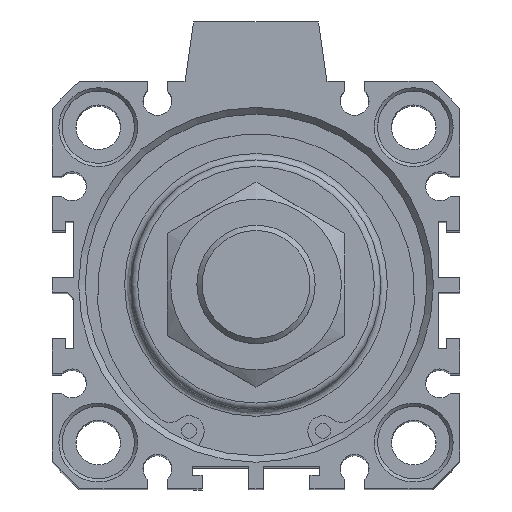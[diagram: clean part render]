
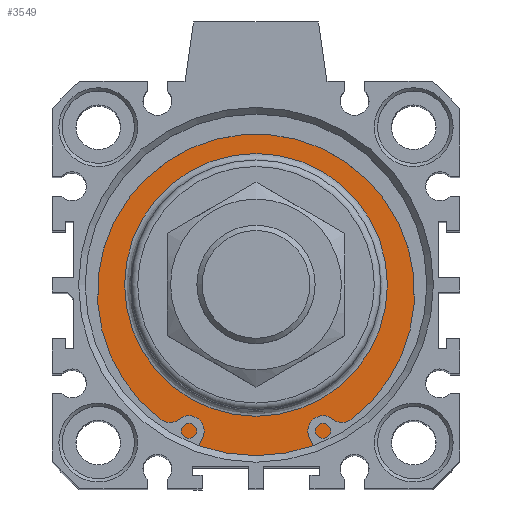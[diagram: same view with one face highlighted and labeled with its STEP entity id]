
A CAD part, top view. The second image highlights one B-rep face of the part: STEP entity #3549.
In plain terms, the highlighted planar face has unit normal (0, 0, 1).
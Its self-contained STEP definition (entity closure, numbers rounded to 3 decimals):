
#3498=CARTESIAN_POINT('',(-0.12,20.837,124.3));
#3499=VERTEX_POINT('',#3498);
#3500=CARTESIAN_POINT('',(-0.12,0.837,124.3));
#3501=DIRECTION('',(0.0,0.0,1.0));
#3502=DIRECTION('',(0.0,-1.0,0.0));
#3503=AXIS2_PLACEMENT_3D('',#3500,#3501,#3502);
#3504=CIRCLE('',#3503,20.);
#3505=EDGE_CURVE('',#3499,#3499,#3504,.T.);
#3530=CARTESIAN_POINT('',(-0.12,23.337,124.3));
#3531=DIRECTION('',(0.0,0.0,1.0));
#3532=DIRECTION('',(1.0,0.0,0.0));
#3533=AXIS2_PLACEMENT_3D('',#3530,#3531,#3532);
#3534=PLANE('',#3533);
#3535=CARTESIAN_POINT('',(-0.12,26.837,124.3));
#3536=VERTEX_POINT('',#3535);
#3537=CARTESIAN_POINT('',(-0.12,0.837,124.3));
#3538=DIRECTION('',(0.0,0.0,-1.0));
#3539=DIRECTION('',(0.0,1.0,0.0));
#3540=AXIS2_PLACEMENT_3D('',#3537,#3538,#3539);
#3541=CIRCLE('',#3540,26.);
#3542=EDGE_CURVE('',#3536,#3536,#3541,.T.);
#3543=ORIENTED_EDGE('',*,*,#3542,.F.);
#3544=EDGE_LOOP('',(#3543));
#3545=FACE_OUTER_BOUND('',#3544,.T.);
#3546=ORIENTED_EDGE('',*,*,#3505,.F.);
#3547=EDGE_LOOP('',(#3546));
#3548=FACE_BOUND('',#3547,.T.);
#3549=ADVANCED_FACE('',(#3545,#3548),#3534,.T.);
